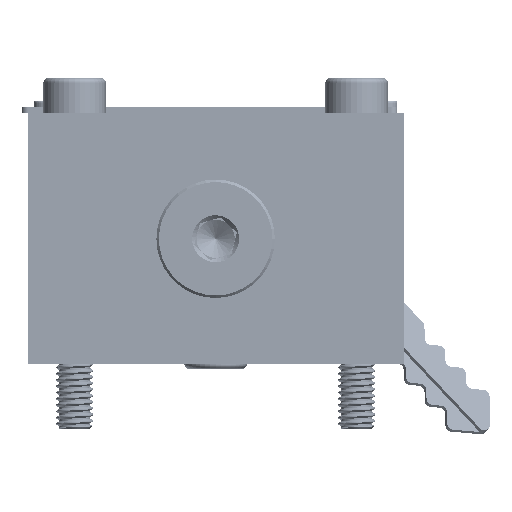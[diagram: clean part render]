
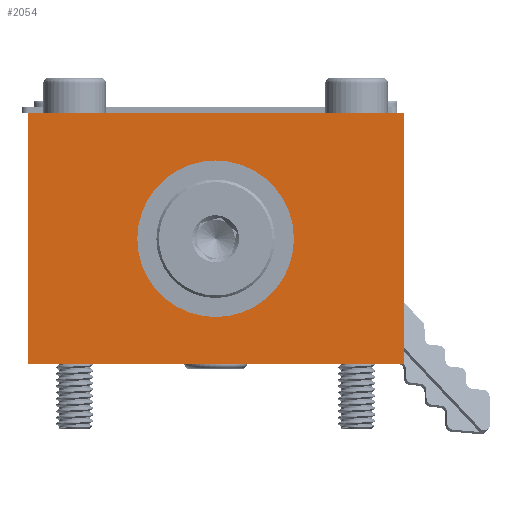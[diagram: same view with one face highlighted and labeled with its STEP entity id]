
A CAD part, front view. The second image highlights one B-rep face of the part: STEP entity #2054.
In plain terms, the highlighted planar face has unit normal (0, -1, 0).
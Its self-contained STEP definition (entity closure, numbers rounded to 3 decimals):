
#1406=CIRCLE('',#13094,12.5);
#2054=ADVANCED_FACE('',(#3570,#3571),#2870,.T.);
#2870=PLANE('',#13095);
#3570=FACE_BOUND('',#4194,.T.);
#3571=FACE_BOUND('',#4195,.T.);
#4194=EDGE_LOOP('',(#5359));
#4195=EDGE_LOOP('',(#5360,#5361,#5362,#5363));
#5359=ORIENTED_EDGE('',*,*,#9952,.F.);
#5360=ORIENTED_EDGE('',*,*,#9953,.F.);
#5361=ORIENTED_EDGE('',*,*,#9951,.F.);
#5362=ORIENTED_EDGE('',*,*,#9914,.T.);
#5363=ORIENTED_EDGE('',*,*,#9954,.T.);
#8713=VERTEX_POINT('',#18058);
#8715=VERTEX_POINT('',#18062);
#8750=VERTEX_POINT('',#18279);
#8751=VERTEX_POINT('',#18283);
#8752=VERTEX_POINT('',#18285);
#9914=EDGE_CURVE('',#8713,#8715,#11613,.T.);
#9951=EDGE_CURVE('',#8713,#8750,#11630,.T.);
#9952=EDGE_CURVE('',#8751,#8751,#1406,.T.);
#9953=EDGE_CURVE('',#8750,#8752,#11631,.T.);
#9954=EDGE_CURVE('',#8715,#8752,#11632,.T.);
#11613=LINE('',#18063,#12341);
#11630=LINE('',#18280,#12358);
#11631=LINE('',#18284,#12359);
#11632=LINE('',#18286,#12360);
#12341=VECTOR('',#14494,1.);
#12358=VECTOR('',#14547,1.);
#12359=VECTOR('',#14552,1.);
#12360=VECTOR('',#14553,1.);
#13094=AXIS2_PLACEMENT_3D('',#18282,#14550,#14551);
#13095=AXIS2_PLACEMENT_3D('',#18287,#14554,#14555);
#14494=DIRECTION('',(0.,0.,1.));
#14547=DIRECTION('',(-1.,0.,0.));
#14550=DIRECTION('',(0.,-1.,0.));
#14551=DIRECTION('',(1.,0.,0.));
#14552=DIRECTION('',(0.,0.,1.));
#14553=DIRECTION('',(-1.,0.,0.));
#14554=DIRECTION('',(0.,-1.,0.));
#14555=DIRECTION('',(1.,0.,0.));
#18058=CARTESIAN_POINT('',(37.801,-78.308,-20.));
#18062=CARTESIAN_POINT('',(37.801,-78.308,20.));
#18063=CARTESIAN_POINT('',(37.801,-78.308,-20.));
#18279=CARTESIAN_POINT('',(-22.199,-78.308,-20.));
#18280=CARTESIAN_POINT('',(37.801,-78.308,-20.));
#18282=CARTESIAN_POINT('',(7.801,-78.308,0.));
#18283=CARTESIAN_POINT('',(20.301,-78.308,0.));
#18284=CARTESIAN_POINT('',(-22.199,-78.308,-20.));
#18285=CARTESIAN_POINT('',(-22.199,-78.308,20.));
#18286=CARTESIAN_POINT('',(37.801,-78.308,20.));
#18287=CARTESIAN_POINT('',(37.801,-78.308,-20.));
